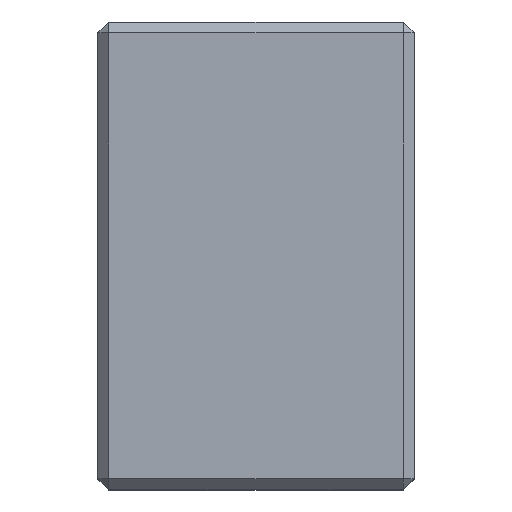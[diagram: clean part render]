
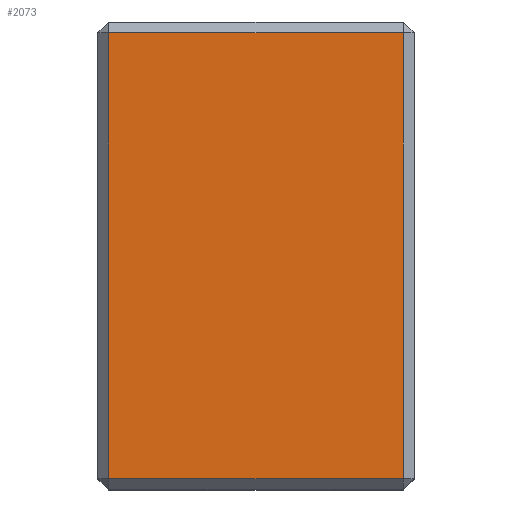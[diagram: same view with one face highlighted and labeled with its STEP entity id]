
A CAD part, top view. The second image highlights one B-rep face of the part: STEP entity #2073.
In plain terms, the highlighted planar face has unit normal (0, 0, 1).
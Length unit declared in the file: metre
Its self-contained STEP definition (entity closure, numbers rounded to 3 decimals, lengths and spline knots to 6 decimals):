
#191=ORIENTED_EDGE('',*,*,#781,.T.);
#192=ORIENTED_EDGE('',*,*,#782,.T.);
#193=ORIENTED_EDGE('',*,*,#783,.T.);
#194=ORIENTED_EDGE('',*,*,#784,.T.);
#781=EDGE_CURVE('',#1071,#1072,#1268,.T.);
#782=EDGE_CURVE('',#1072,#1073,#1269,.T.);
#783=EDGE_CURVE('',#1073,#1074,#1270,.T.);
#784=EDGE_CURVE('',#1074,#1071,#1271,.T.);
#1071=VERTEX_POINT('',#3108);
#1072=VERTEX_POINT('',#3109);
#1073=VERTEX_POINT('',#3111);
#1074=VERTEX_POINT('',#3113);
#1268=LINE('',#3107,#1506);
#1269=LINE('',#3110,#1507);
#1270=LINE('',#3112,#1508);
#1271=LINE('',#3114,#1509);
#1506=VECTOR('',#2480,1.);
#1507=VECTOR('',#2481,1.);
#1508=VECTOR('',#2482,1.);
#1509=VECTOR('',#2483,1.);
#1697=EDGE_LOOP('',(#191,#192,#193,#194));
#1843=FACE_BOUND('',#1697,.T.);
#1984=PLANE('',#2217);
#2073=ADVANCED_FACE('',(#1843),#1984,.T.);
#2217=AXIS2_PLACEMENT_3D('',#3106,#2478,#2479);
#2478=DIRECTION('',(0.,0.,1.));
#2479=DIRECTION('',(-1.,0.,0.));
#2480=DIRECTION('',(0.,-1.,0.));
#2481=DIRECTION('',(1.,0.,0.));
#2482=DIRECTION('',(0.,1.,0.));
#2483=DIRECTION('',(-1.,0.,0.));
#3106=CARTESIAN_POINT('',(0.04,0.,0.));
#3107=CARTESIAN_POINT('',(-0.0025,0.,0.));
#3108=CARTESIAN_POINT('',(-0.0025,0.0035,0.));
#3109=CARTESIAN_POINT('',(-0.0025,-0.0585,0.));
#3110=CARTESIAN_POINT('',(0.04,-0.0585,0.));
#3111=CARTESIAN_POINT('',(0.0385,-0.0585,0.));
#3112=CARTESIAN_POINT('',(0.0385,0.,0.));
#3113=CARTESIAN_POINT('',(0.0385,0.0035,0.));
#3114=CARTESIAN_POINT('',(0.04,0.0035,0.));
